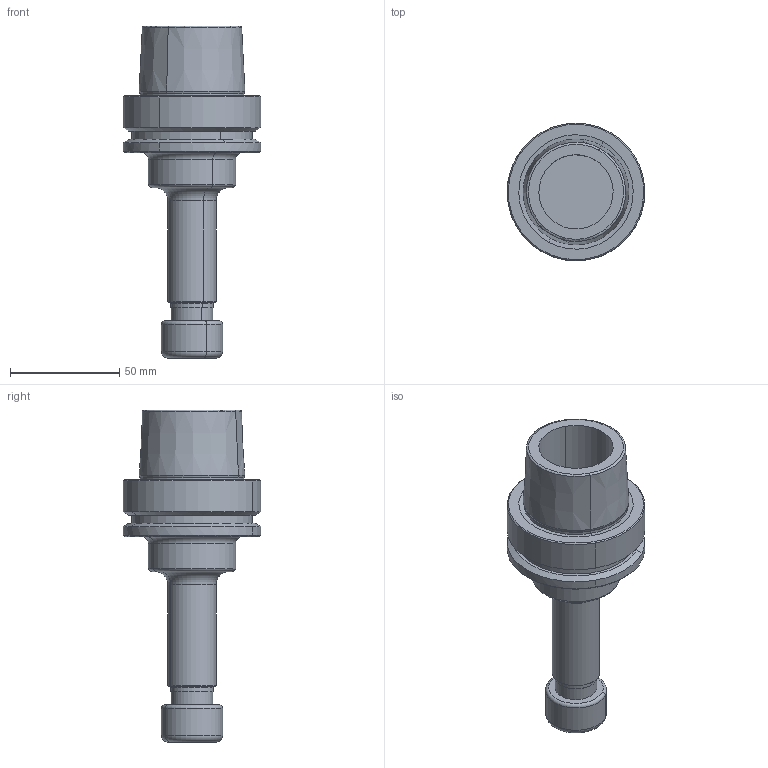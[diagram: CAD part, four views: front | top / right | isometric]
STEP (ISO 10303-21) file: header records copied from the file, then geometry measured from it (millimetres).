
FILE_DESCRIPTION(('CATIA V5 STEP','CAx-IF Rec.Pracs.--- Model Styling and Organization---1.2---2011-12-15'),'2;1');
FILE_NAME('\\nas01\drv1\utils\eitdev\rte\eit\transmagicconvert\db\out\635931049417111320\4561139-L-B.stp','2016-03-09T05:22:34+00:00',('none'),('none'),'CATIA Version 5 Release 21 SP 5 (IN-10)','CATIA V5 STEP AP214','none');
FILE_SCHEMA(('AUTOMOTIVE_DESIGN { 1 0 10303 214 1 1 1 1 }'));
Length unit declared in the file: millimetre
Products named in the file (1): HSK A 63 ER16X120 M
Bounding box: 62.98 x 63 x 152 mm (x, y, z)
Volume: 142813 mm3; surface area: 30535.9 mm2
Topology: 1 solids, 1 shells, 75 faces, 162 edges, 97 vertices
Faces by surface type: cylinder 26, cone 20, torus 18, plane 11
Entity records: 1954 total; most frequent: CARTESIAN_POINT 460, ORIENTED_EDGE 320, DIRECTION 242, EDGE_CURVE 160, AXIS2_PLACEMENT_3D 152, CIRCLE 106, VERTEX_POINT 97, EDGE_LOOP 85
